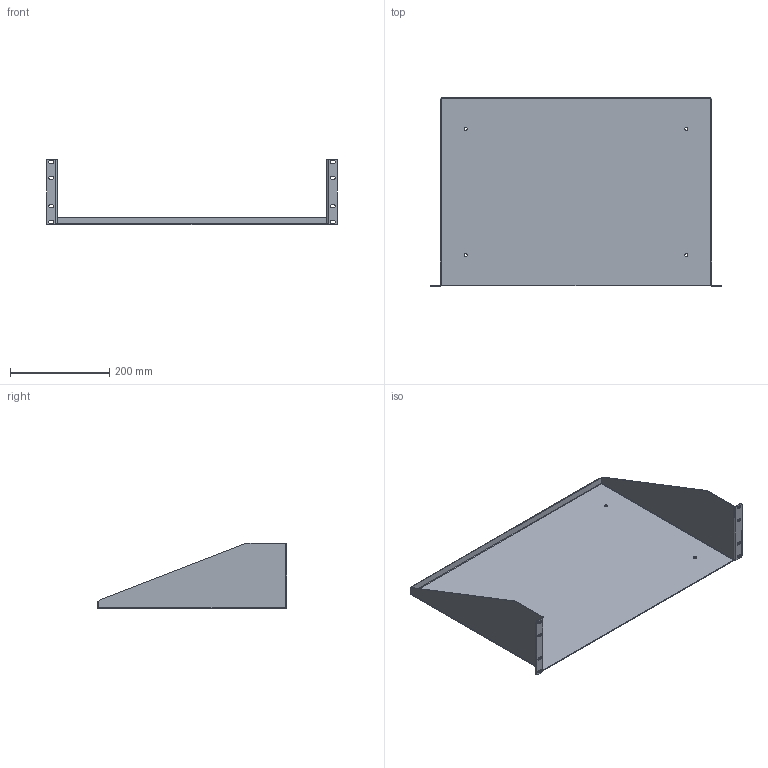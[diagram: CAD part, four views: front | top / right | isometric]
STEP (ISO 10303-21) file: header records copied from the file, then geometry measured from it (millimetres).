
FILE_DESCRIPTION( ( 'Unknown' ), '1' );
FILE_NAME( 'Q:/ACCESSORIES/SHELVES/RK _ RMA/WEB DRAWINGS/STEP/RASU230515.stp', 'Unknown', ( 'Unknown' ), ( 'Unknown' ), 'PSStep 10.1', 'Unknown', ' ' );
FILE_SCHEMA( ( 'AUTOMOTIVE_DESIGN { 1 0 10303 214 1 1 1 1 }' ) );
Length unit declared in the file: millimetre
Products named in the file (1): 1
Bounding box: 584.35 x 381 x 132.54 mm (x, y, z)
Volume: 516366.5 mm3; surface area: 569437.5 mm2
Topology: 1 solids, 1 shells, 100 faces, 274 edges, 176 vertices
Faces by surface type: plane 56, cylinder 40, bspline 4
Full cylindrical faces by diameter (mm): 6.35 x4
Entity records: 3445 total; most frequent: CARTESIAN_POINT 843, ORIENTED_EDGE 540, DIRECTION 524, EDGE_CURVE 270, AXIS2_PLACEMENT_3D 177, VERTEX_POINT 176, LINE 170, VECTOR 170
